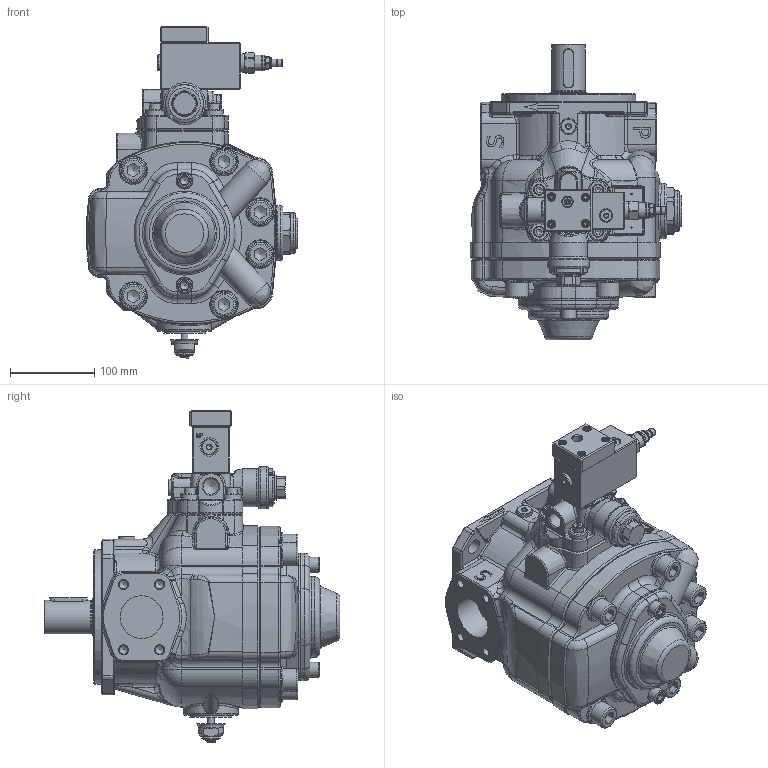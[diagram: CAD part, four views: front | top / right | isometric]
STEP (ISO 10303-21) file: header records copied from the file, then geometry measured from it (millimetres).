
FILE_DESCRIPTION(/* description */ (''),/* implementation_level */ '2;1');
FILE_NAME(/* name */ 'W:\Tecnico\Archivio\Berarma\Dimensioni Pompe\3D Export\Montaggio 3D semplificato\PLP-PHP 3\PHP 3 -A PCS002.stp',/* time_stamp */ '2018-10-10T08:50:04+02:00',/* author */ ('marcop'),/* organization */ (''),/* preprocessor_version */ 'ST-DEVELOPER v17',/* originating_system */ 'Autodesk Inventor 2018',/* authorisation */ '');
FILE_SCHEMA (('AUTOMOTIVE_DESIGN { 1 0 10303 214 3 1 1 }'));
Products named in the file (1): PLP-PHP 3_Shrinkwrap_1
Bounding box: 251.18 x 352 x 395.1 mm (x, y, z)
Volume: 7117086 mm3; surface area: 591574.6 mm2
Topology: 2 solids, 2 shells, 2312 faces, 5868 edges, 3621 vertices
Faces by surface type: plane 829, cylinder 505, bspline 459, torus 248, cone 227, sphere 44
Full cylindrical faces by diameter (mm): 1.7 x4, 3 x2, 3.15 x1, 4 x2, 6 x2, 6.5 x1, 7.2 x1, 7.671 x2, 8 x1, 8.376 x4, 8.5 x4, 9 x4, 9.347 x2, 9.5 x1, 10.106 x4, 11.445 x2, 12 x5, 13 x4, 13.487 x1, 13.5 x1, 13.767 x2, 14 x3, 14.63 x1, 15.5 x1, 16 x2, 17.399 x1, 17.5 x1, 17.78 x1, 18 x6, 18.631 x1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
Entity records: 86625 total; most frequent: CARTESIAN_POINT 31357, ORIENTED_EDGE 11568, DIRECTION 10460, EDGE_CURVE 5784, AXIS2_PLACEMENT_3D 4089, VERTEX_POINT 3621, EDGE_LOOP 2467, STYLED_ITEM 2314
